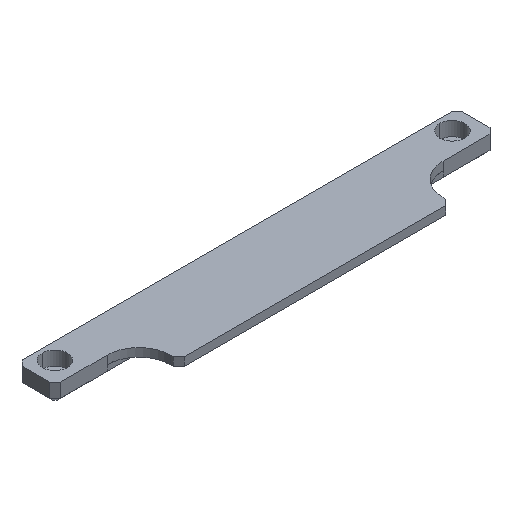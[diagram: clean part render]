
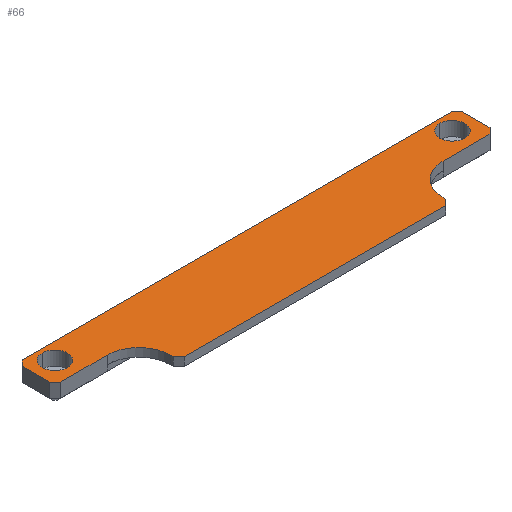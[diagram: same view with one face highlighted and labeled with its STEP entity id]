
A CAD part, isometric view. The second image highlights one B-rep face of the part: STEP entity #66.
In plain terms, the highlighted planar face has unit normal (0, 0, 1).
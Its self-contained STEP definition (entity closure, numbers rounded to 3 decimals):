
#66=ADVANCED_FACE('',(#160,#161,#113),#453,.T.);
#113=FACE_OUTER_BOUND('',#168,.F.);
#160=FACE_BOUND('',#166,.F.);
#161=FACE_BOUND('',#167,.F.);
#166=EDGE_LOOP('',(#219,#220));
#167=EDGE_LOOP('',(#221,#222));
#168=EDGE_LOOP('',(#223,#224,#225,#226,#227,#228,#229,#230,#231,#232,#233,
#234,#235,#236,#237,#238));
#219=ORIENTED_EDGE('',*,*,#677,.T.);
#220=ORIENTED_EDGE('',*,*,#676,.T.);
#221=ORIENTED_EDGE('',*,*,#673,.T.);
#222=ORIENTED_EDGE('',*,*,#672,.T.);
#223=ORIENTED_EDGE('',*,*,#739,.T.);
#224=ORIENTED_EDGE('',*,*,#715,.T.);
#225=ORIENTED_EDGE('',*,*,#748,.T.);
#226=ORIENTED_EDGE('',*,*,#711,.T.);
#227=ORIENTED_EDGE('',*,*,#747,.T.);
#228=ORIENTED_EDGE('',*,*,#746,.T.);
#229=ORIENTED_EDGE('',*,*,#745,.T.);
#230=ORIENTED_EDGE('',*,*,#707,.T.);
#231=ORIENTED_EDGE('',*,*,#744,.T.);
#232=ORIENTED_EDGE('',*,*,#704,.T.);
#233=ORIENTED_EDGE('',*,*,#743,.T.);
#234=ORIENTED_EDGE('',*,*,#701,.T.);
#235=ORIENTED_EDGE('',*,*,#742,.T.);
#236=ORIENTED_EDGE('',*,*,#718,.T.);
#237=ORIENTED_EDGE('',*,*,#741,.T.);
#238=ORIENTED_EDGE('',*,*,#740,.T.);
#453=PLANE('',#915);
#507=LINE('',#1310,#598);
#510=LINE('',#1313,#601);
#513=LINE('',#1316,#604);
#517=LINE('',#1320,#608);
#521=LINE('',#1324,#612);
#524=LINE('',#1327,#615);
#539=LINE('',#1348,#630);
#540=LINE('',#1350,#631);
#541=LINE('',#1351,#632);
#542=LINE('',#1352,#633);
#543=LINE('',#1353,#634);
#544=LINE('',#1354,#635);
#545=LINE('',#1356,#636);
#546=LINE('',#1357,#637);
#598=VECTOR('',#1008,2.828);
#601=VECTOR('',#1011,2.828);
#604=VECTOR('',#1014,2.828);
#608=VECTOR('',#1018,2.828);
#612=VECTOR('',#1022,2.828);
#615=VECTOR('',#1025,2.828);
#630=VECTOR('',#1052,1.);
#631=VECTOR('',#1055,16.725);
#632=VECTOR('',#1056,9.75);
#633=VECTOR('',#1057,153.45);
#634=VECTOR('',#1058,9.75);
#635=VECTOR('',#1059,16.725);
#636=VECTOR('',#1062,1.);
#637=VECTOR('',#1063,93.5);
#672=EDGE_CURVE('',#884,#883,#789,.T.);
#673=EDGE_CURVE('',#883,#884,#790,.T.);
#676=EDGE_CURVE('',#880,#879,#793,.T.);
#677=EDGE_CURVE('',#879,#880,#794,.T.);
#701=EDGE_CURVE('',#849,#848,#507,.T.);
#704=EDGE_CURVE('',#847,#846,#510,.T.);
#707=EDGE_CURVE('',#845,#844,#513,.T.);
#711=EDGE_CURVE('',#841,#840,#517,.T.);
#715=EDGE_CURVE('',#837,#836,#521,.T.);
#718=EDGE_CURVE('',#835,#834,#524,.T.);
#739=EDGE_CURVE('',#820,#837,#539,.T.);
#740=EDGE_CURVE('',#819,#820,#805,.T.);
#741=EDGE_CURVE('',#834,#819,#540,.T.);
#742=EDGE_CURVE('',#848,#835,#541,.T.);
#743=EDGE_CURVE('',#846,#849,#542,.T.);
#744=EDGE_CURVE('',#844,#847,#543,.T.);
#745=EDGE_CURVE('',#818,#845,#544,.T.);
#746=EDGE_CURVE('',#817,#818,#806,.T.);
#747=EDGE_CURVE('',#840,#817,#545,.T.);
#748=EDGE_CURVE('',#836,#841,#546,.T.);
#789=CIRCLE('',#891,4.5);
#790=CIRCLE('',#892,4.5);
#793=CIRCLE('',#895,4.5);
#794=CIRCLE('',#896,4.5);
#805=CIRCLE('',#907,11.25);
#806=CIRCLE('',#908,11.25);
#817=VERTEX_POINT('',#1209);
#818=VERTEX_POINT('',#1210);
#819=VERTEX_POINT('',#1211);
#820=VERTEX_POINT('',#1212);
#834=VERTEX_POINT('',#1226);
#835=VERTEX_POINT('',#1227);
#836=VERTEX_POINT('',#1228);
#837=VERTEX_POINT('',#1229);
#840=VERTEX_POINT('',#1232);
#841=VERTEX_POINT('',#1233);
#844=VERTEX_POINT('',#1236);
#845=VERTEX_POINT('',#1237);
#846=VERTEX_POINT('',#1238);
#847=VERTEX_POINT('',#1239);
#848=VERTEX_POINT('',#1240);
#849=VERTEX_POINT('',#1241);
#879=VERTEX_POINT('',#1271);
#880=VERTEX_POINT('',#1272);
#883=VERTEX_POINT('',#1275);
#884=VERTEX_POINT('',#1276);
#891=AXIS2_PLACEMENT_3D('',#1281,#969,#970);
#892=AXIS2_PLACEMENT_3D('',#1282,#971,#972);
#895=AXIS2_PLACEMENT_3D('',#1285,#977,#978);
#896=AXIS2_PLACEMENT_3D('',#1286,#979,#980);
#907=AXIS2_PLACEMENT_3D('',#1349,#1053,#1054);
#908=AXIS2_PLACEMENT_3D('',#1355,#1060,#1061);
#915=AXIS2_PLACEMENT_3D('',#1396,#1108,#1109);
#969=DIRECTION('',(0.,0.,1.));
#970=DIRECTION('',(0.,-1.,0.));
#971=DIRECTION('',(0.,0.,1.));
#972=DIRECTION('',(0.,1.,0.));
#977=DIRECTION('',(0.,0.,1.));
#978=DIRECTION('',(0.,-1.,0.));
#979=DIRECTION('',(0.,0.,1.));
#980=DIRECTION('',(0.,1.,0.));
#1008=DIRECTION('',(0.707,-0.707,0.));
#1011=DIRECTION('',(0.707,0.707,0.));
#1014=DIRECTION('',(-0.707,0.707,0.));
#1018=DIRECTION('',(-0.707,0.707,0.));
#1022=DIRECTION('',(-0.707,-0.707,0.));
#1025=DIRECTION('',(-0.707,-0.707,0.));
#1052=DIRECTION('',(0.,-1.,0.));
#1053=DIRECTION('',(0.,0.,1.));
#1054=DIRECTION('',(0.,1.,0.));
#1055=DIRECTION('',(-1.,0.,0.));
#1056=DIRECTION('',(0.,-1.,0.));
#1057=DIRECTION('',(1.,0.,0.));
#1058=DIRECTION('',(0.,1.,0.));
#1059=DIRECTION('',(-1.,0.,0.));
#1060=DIRECTION('',(0.,0.,1.));
#1061=DIRECTION('',(1.,0.,0.));
#1062=DIRECTION('',(0.,1.,0.));
#1063=DIRECTION('',(-1.,0.,0.));
#1108=DIRECTION('',(0.,0.,1.));
#1109=DIRECTION('',(0.,-1.,0.));
#1209=CARTESIAN_POINT('',(-48.75,567.225,-70.));
#1210=CARTESIAN_POINT('',(-60.,578.475,-70.));
#1211=CARTESIAN_POINT('',(60.,578.475,-70.));
#1212=CARTESIAN_POINT('',(48.75,567.225,-70.));
#1226=CARTESIAN_POINT('',(76.725,578.475,-70.));
#1227=CARTESIAN_POINT('',(78.725,580.475,-70.));
#1228=CARTESIAN_POINT('',(46.75,564.225,-70.));
#1229=CARTESIAN_POINT('',(48.75,566.225,-70.));
#1232=CARTESIAN_POINT('',(-48.75,566.225,-70.));
#1233=CARTESIAN_POINT('',(-46.75,564.225,-70.));
#1236=CARTESIAN_POINT('',(-78.725,580.475,-70.));
#1237=CARTESIAN_POINT('',(-76.725,578.475,-70.));
#1238=CARTESIAN_POINT('',(-76.725,592.225,-70.));
#1239=CARTESIAN_POINT('',(-78.725,590.225,-70.));
#1240=CARTESIAN_POINT('',(78.725,590.225,-70.));
#1241=CARTESIAN_POINT('',(76.725,592.225,-70.));
#1271=CARTESIAN_POINT('',(71.,590.725,-70.));
#1272=CARTESIAN_POINT('',(71.,581.725,-70.));
#1275=CARTESIAN_POINT('',(-71.,590.725,-70.));
#1276=CARTESIAN_POINT('',(-71.,581.725,-70.));
#1281=CARTESIAN_POINT('',(-71.,586.225,-70.));
#1282=CARTESIAN_POINT('',(-71.,586.225,-70.));
#1285=CARTESIAN_POINT('',(71.,586.225,-70.));
#1286=CARTESIAN_POINT('',(71.,586.225,-70.));
#1310=CARTESIAN_POINT('',(76.725,592.225,-70.));
#1313=CARTESIAN_POINT('',(-78.725,590.225,-70.));
#1316=CARTESIAN_POINT('',(-76.725,578.475,-70.));
#1320=CARTESIAN_POINT('',(-46.75,564.225,-70.));
#1324=CARTESIAN_POINT('',(48.75,566.225,-70.));
#1327=CARTESIAN_POINT('',(78.725,580.475,-70.));
#1348=CARTESIAN_POINT('',(48.75,567.225,-70.));
#1349=CARTESIAN_POINT('',(60.,567.225,-70.));
#1350=CARTESIAN_POINT('',(76.725,578.475,-70.));
#1351=CARTESIAN_POINT('',(78.725,590.225,-70.));
#1352=CARTESIAN_POINT('',(-76.725,592.225,-70.));
#1353=CARTESIAN_POINT('',(-78.725,580.475,-70.));
#1354=CARTESIAN_POINT('',(-60.,578.475,-70.));
#1355=CARTESIAN_POINT('',(-60.,567.225,-70.));
#1356=CARTESIAN_POINT('',(-48.75,566.225,-70.));
#1357=CARTESIAN_POINT('',(46.75,564.225,-70.));
#1396=CARTESIAN_POINT('',(-80.3,593.8,-70.));
